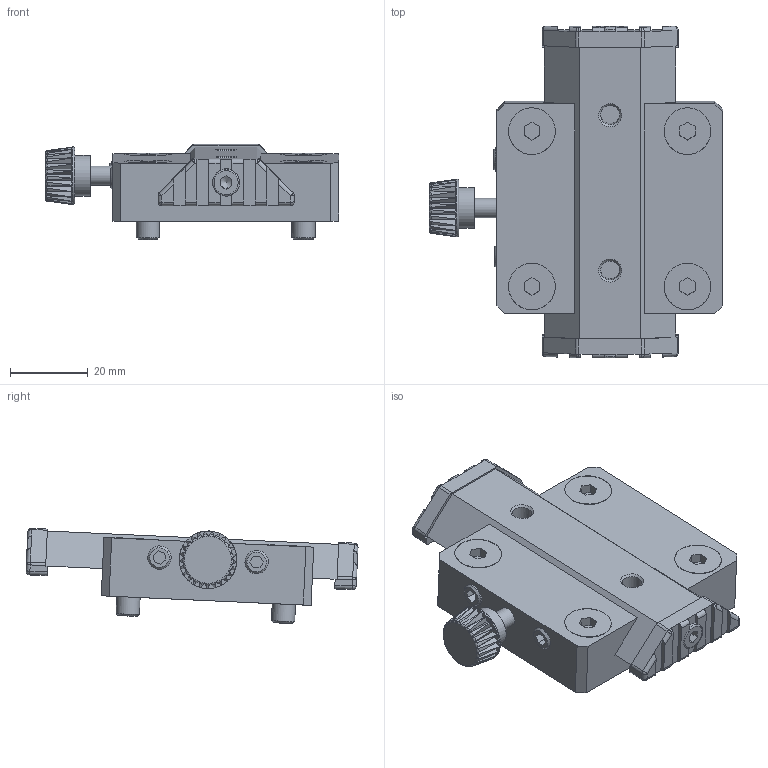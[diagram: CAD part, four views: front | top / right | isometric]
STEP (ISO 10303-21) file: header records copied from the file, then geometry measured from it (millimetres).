
FILE_DESCRIPTION(/* description */ (''),/* implementation_level */ '2;1');
FILE_NAME(/* name */ 'LM-9936-0148 PARALLELISM STAGE.stp',/* time_stamp */ '2021-02-11T15:41:02+00:00',/* author */ (''),/* organization */ (''),/* preprocessor_version */ 'ST-DEVELOPER v16.7',/* originating_system */ 'SIEMENS PLM Software NX 1942',/* authorisation */ '');
FILE_SCHEMA (('AUTOMOTIVE_DESIGN { 1 0 10303 214 3 1 1 1 }'));
Length unit declared in the file: millimetre
Products named in the file (1): cm143410F430dbtv
Bounding box: 75.34 x 85.37 x 24.49 mm (x, y, z)
Volume: 56050 mm3; surface area: 18070.6 mm2
Topology: 1 solids, 3 shells, 370 faces, 915 edges, 571 vertices
Faces by surface type: plane 235, cylinder 73, torus 28, cone 22, sphere 12
Full cylindrical faces by diameter (mm): 3.242 x2, 4.134 x1, 4.917 x4, 5 x1, 6 x6, 10.5 x1, 12 x4
Entity records: 13022 total; most frequent: CARTESIAN_POINT 2960, ORIENTED_EDGE 1810, DIRECTION 1722, EDGE_CURVE 905, AXIS2_PLACEMENT_3D 630, VERTEX_POINT 568, LINE 462, VECTOR 462
